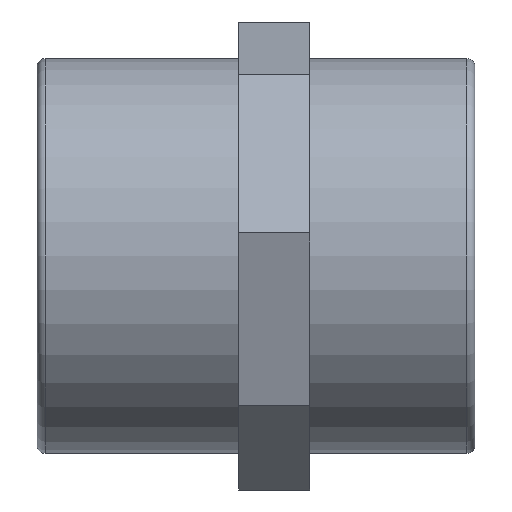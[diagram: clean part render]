
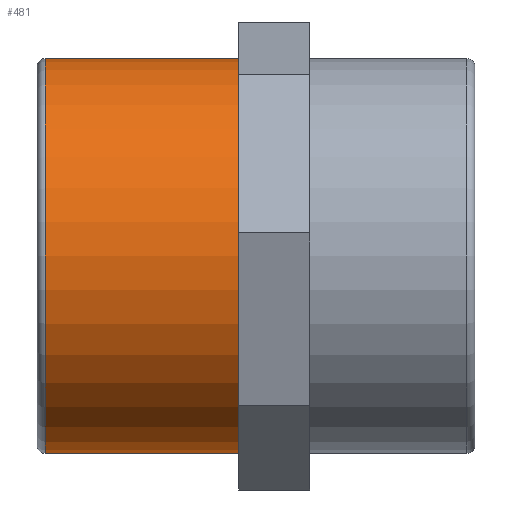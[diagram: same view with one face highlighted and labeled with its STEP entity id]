
A CAD part, front view. The second image highlights one B-rep face of the part: STEP entity #481.
In plain terms, the highlighted cylindrical face has radius 25 mm (diameter 50 mm), a full revolution.
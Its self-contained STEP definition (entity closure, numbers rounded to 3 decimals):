
#48=CYLINDRICAL_SURFACE('',#524,25.);
#60=FACE_BOUND('',#145,.T.);
#71=CIRCLE('',#503,25.);
#78=CIRCLE('',#525,25.);
#104=FACE_OUTER_BOUND('',#144,.T.);
#144=EDGE_LOOP('',(#388));
#145=EDGE_LOOP('',(#389));
#229=VERTEX_POINT('',#681);
#244=VERTEX_POINT('',#734);
#275=EDGE_CURVE('',#229,#229,#71,.T.);
#298=EDGE_CURVE('',#244,#244,#78,.T.);
#388=ORIENTED_EDGE('',*,*,#275,.T.);
#389=ORIENTED_EDGE('',*,*,#298,.F.);
#481=ADVANCED_FACE('',(#104,#60),#48,.T.);
#503=AXIS2_PLACEMENT_3D('',#682,#559,#560);
#524=AXIS2_PLACEMENT_3D('',#733,#617,#618);
#525=AXIS2_PLACEMENT_3D('',#735,#619,#620);
#559=DIRECTION('center_axis',(-1.,0.,0.));
#560=DIRECTION('ref_axis',(0.,-1.,0.));
#617=DIRECTION('center_axis',(-1.,0.,0.));
#618=DIRECTION('ref_axis',(0.,-1.,0.));
#619=DIRECTION('center_axis',(-1.,0.,0.));
#620=DIRECTION('ref_axis',(0.,1.,0.));
#681=CARTESIAN_POINT('',(25.5,25.,0.));
#682=CARTESIAN_POINT('Origin',(25.5,0.,0.));
#733=CARTESIAN_POINT('Origin',(27.7,0.,0.));
#734=CARTESIAN_POINT('',(1.,-25.,0.));
#735=CARTESIAN_POINT('Origin',(1.,0.,0.));
